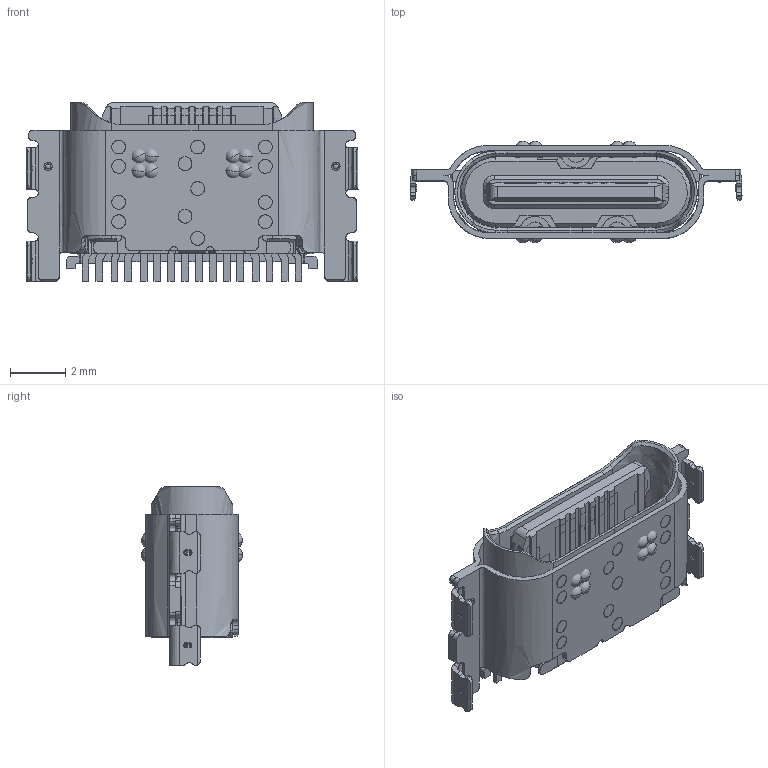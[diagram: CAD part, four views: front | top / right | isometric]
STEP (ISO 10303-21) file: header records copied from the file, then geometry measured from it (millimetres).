
FILE_DESCRIPTION (( 'STEP AP203' ), '1' );
FILE_NAME ('GT-USB-7085A.STEP', '2023-05-24T02:30:40', ( '' ), ( '' ), 'SwSTEP 2.0', 'SolidWorks 2023', '' );
FILE_SCHEMA (( 'CONFIG_CONTROL_DESIGN' ));
Length unit declared in the file: millimetre
Products named in the file (3): GT-USB-7085A; GT-USB-7085A+PCB(2)^GT-USB-7085A+PCB; GT-USB-7085A^GT-USB-7085A+PCB(2)_GT-USB-7085A+PCB
Assembly tree (2 placements, depth 3):
  GT-USB-7085A
    GT-USB-7085A+PCB(2)^GT-USB-7085A+PCB
      GT-USB-7085A^GT-USB-7085A+PCB(2)_GT-USB-7085A+PCB
Bounding box: 12 x 3.66 x 6.45 mm (x, y, z)
Surface area: 908.9 mm2 (no closed solid volume)
Topology: 0 solids, 12 shells, 3357 faces, 9531 edges, 6097 vertices
Faces by surface type: bspline 3234, sphere 99, torus 24
Entity records: 147293 total; most frequent: CARTESIAN_POINT 89655, ORIENTED_EDGE 18670, EDGE_CURVE 9351, B_SPLINE_CURVE_WITH_KNOTS 9138, VERTEX_POINT 5990, EDGE_LOOP 3463, ADVANCED_FACE 3355, FACE_OUTER_BOUND 3355
